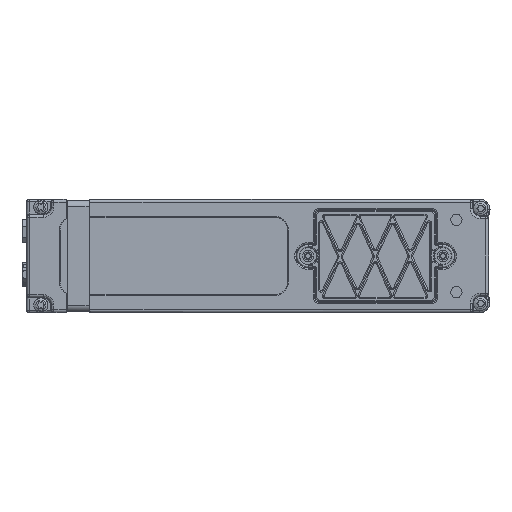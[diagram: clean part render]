
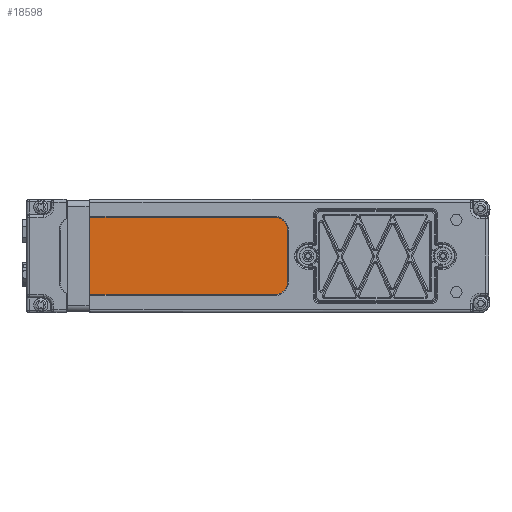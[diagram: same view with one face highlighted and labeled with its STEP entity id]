
A CAD part, front view. The second image highlights one B-rep face of the part: STEP entity #18598.
In plain terms, the highlighted planar face has unit normal (0, -1, 0).
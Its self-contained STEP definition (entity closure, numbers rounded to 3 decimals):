
#16873=PLANE('',#69244);
#17787=ELLIPSE('',#69242,0.3,0.3);
#17788=ELLIPSE('',#69243,0.3,0.3);
#18598=ADVANCED_FACE('',(#22414),#16873,.F.);
#22414=FACE_OUTER_BOUND('',#25327,.T.);
#25327=EDGE_LOOP('',(#32326,#32327,#32328,#32329,#32330,#32331,#32332,#32333));
#32326=ORIENTED_EDGE('',*,*,#50280,.F.);
#32327=ORIENTED_EDGE('',*,*,#50281,.T.);
#32328=ORIENTED_EDGE('',*,*,#50282,.T.);
#32329=ORIENTED_EDGE('',*,*,#50283,.T.);
#32330=ORIENTED_EDGE('',*,*,#50284,.T.);
#32331=ORIENTED_EDGE('',*,*,#50273,.T.);
#32332=ORIENTED_EDGE('',*,*,#50285,.F.);
#32333=ORIENTED_EDGE('',*,*,#50277,.T.);
#45173=VERTEX_POINT('',#93931);
#45175=VERTEX_POINT('',#93935);
#45177=VERTEX_POINT('',#93940);
#45179=VERTEX_POINT('',#93944);
#45181=VERTEX_POINT('',#93950);
#45182=VERTEX_POINT('',#93954);
#45183=VERTEX_POINT('',#93956);
#45184=VERTEX_POINT('',#93958);
#50273=EDGE_CURVE('',#45173,#45175,#55851,.T.);
#50277=EDGE_CURVE('',#45177,#45179,#55853,.T.);
#50280=EDGE_CURVE('',#45181,#45179,#61596,.T.);
#50281=EDGE_CURVE('',#45181,#45182,#17787,.T.);
#50282=EDGE_CURVE('',#45182,#45183,#61597,.T.);
#50283=EDGE_CURVE('',#45183,#45184,#17788,.T.);
#50284=EDGE_CURVE('',#45184,#45173,#61598,.T.);
#50285=EDGE_CURVE('',#45177,#45175,#61599,.T.);
#55851=CIRCLE('',#69236,5.);
#55853=CIRCLE('',#69239,5.);
#61596=LINE('',#93951,#65392);
#61597=LINE('',#93955,#65393);
#61598=LINE('',#93959,#65394);
#61599=LINE('',#93960,#65395);
#65392=VECTOR('',#77468,1.);
#65393=VECTOR('',#77473,1.);
#65394=VECTOR('',#77476,1.);
#65395=VECTOR('',#77477,1.);
#69236=AXIS2_PLACEMENT_3D('',#93936,#77454,#77455);
#69239=AXIS2_PLACEMENT_3D('',#93945,#77462,#77463);
#69242=AXIS2_PLACEMENT_3D('',#93953,#77471,#77472);
#69243=AXIS2_PLACEMENT_3D('',#93957,#77474,#77475);
#69244=AXIS2_PLACEMENT_3D('',#93961,#77478,#77479);
#77454=DIRECTION('',(0.,-1.,0.));
#77455=DIRECTION('',(-1.,0.,0.));
#77462=DIRECTION('',(0.,-1.,0.));
#77463=DIRECTION('',(-1.,0.,0.));
#77468=DIRECTION('',(1.,0.,0.));
#77471=DIRECTION('',(0.,1.,0.));
#77472=DIRECTION('',(0.,0.,1.));
#77473=DIRECTION('',(0.,0.,-1.));
#77474=DIRECTION('',(0.,1.,0.));
#77475=DIRECTION('',(0.,0.,1.));
#77476=DIRECTION('',(1.,0.,0.));
#77477=DIRECTION('',(0.,0.,-1.));
#77478=DIRECTION('',(0.,1.,0.));
#77479=DIRECTION('',(-1.,0.,0.));
#93931=CARTESIAN_POINT('',(-70.35,0.8,-1.));
#93935=CARTESIAN_POINT('',(-65.35,0.8,4.));
#93936=CARTESIAN_POINT('',(-70.35,0.8,4.));
#93940=CARTESIAN_POINT('',(-65.35,0.8,24.));
#93944=CARTESIAN_POINT('',(-70.35,0.8,29.));
#93945=CARTESIAN_POINT('',(-70.35,0.8,24.));
#93950=CARTESIAN_POINT('',(-141.8,0.8,29.));
#93951=CARTESIAN_POINT('',(-153.35,0.8,29.));
#93953=CARTESIAN_POINT('',(-141.8,0.8,29.3));
#93954=CARTESIAN_POINT('',(-142.1,0.8,29.3));
#93955=CARTESIAN_POINT('',(-142.1,0.8,29.));
#93956=CARTESIAN_POINT('',(-142.1,0.8,-1.3));
#93957=CARTESIAN_POINT('',(-141.8,0.8,-1.3));
#93958=CARTESIAN_POINT('',(-141.8,0.8,-1.));
#93959=CARTESIAN_POINT('',(-153.35,0.8,-1.));
#93960=CARTESIAN_POINT('',(-65.35,0.8,29.));
#93961=CARTESIAN_POINT('',(-153.35,0.8,29.));
